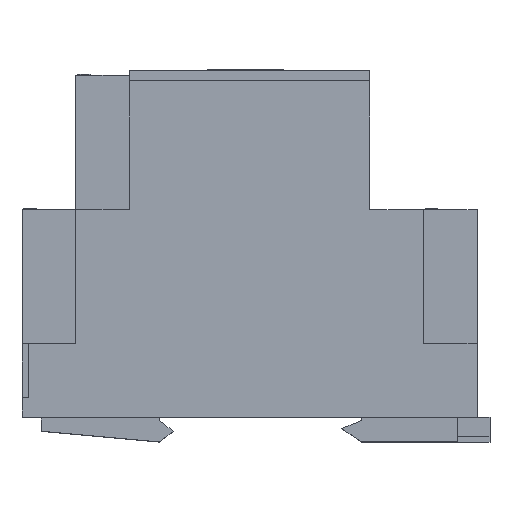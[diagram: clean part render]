
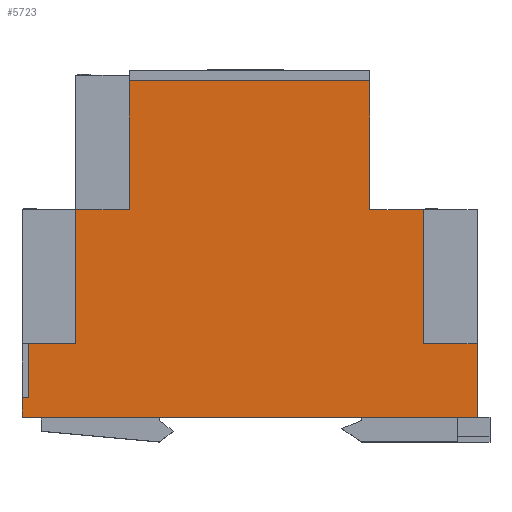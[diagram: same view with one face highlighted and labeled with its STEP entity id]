
A CAD part, top view. The second image highlights one B-rep face of the part: STEP entity #5723.
In plain terms, the highlighted planar face has unit normal (0, 0, 1).
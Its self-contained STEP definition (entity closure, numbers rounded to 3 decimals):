
#252 = DIRECTION ( 'NONE',  ( 0., -1., 0. ) ) ;
#365 = VECTOR ( 'NONE', #18412, 1000. ) ;
#812 = CARTESIAN_POINT ( 'NONE',  ( -83.5, 3.7, 1.3 ) ) ;
#862 = CARTESIAN_POINT ( 'NONE',  ( -10., 0., 1.3 ) ) ;
#888 = VERTEX_POINT ( 'NONE', #14389 ) ;
#930 = DIRECTION ( 'NONE',  ( 1., 0., 0. ) ) ;
#960 = DIRECTION ( 'NONE',  ( 0., 1., 0. ) ) ;
#985 = EDGE_CURVE ( 'NONE', #888, #11224, #7824, .T. ) ;
#1005 = EDGE_CURVE ( 'NONE', #10186, #8258, #7580, .T. ) ;
#1074 = DIRECTION ( 'NONE',  ( 1., 0., 0. ) ) ;
#1249 = VERTEX_POINT ( 'NONE', #3626 ) ;
#1283 = ORIENTED_EDGE ( 'NONE', *, *, #6803, .F. ) ;
#1421 = LINE ( 'NONE', #3246, #16310 ) ;
#1718 = VERTEX_POINT ( 'NONE', #4795 ) ;
#2174 = ORIENTED_EDGE ( 'NONE', *, *, #6725, .T. ) ;
#2291 = ORIENTED_EDGE ( 'NONE', *, *, #5505, .F. ) ;
#3193 = CARTESIAN_POINT ( 'NONE',  ( -74.8, 0., 1.3 ) ) ;
#3246 = CARTESIAN_POINT ( 'NONE',  ( 0., 0., 1.3 ) ) ;
#3335 = CARTESIAN_POINT ( 'NONE',  ( -84.8, 0., 1.3 ) ) ;
#3439 = VERTEX_POINT ( 'NONE', #15378 ) ;
#3473 = EDGE_CURVE ( 'NONE', #10295, #13990, #14939, .T. ) ;
#3626 = CARTESIAN_POINT ( 'NONE',  ( -10., 38.7, 1.3 ) ) ;
#3632 = DIRECTION ( 'NONE',  ( 1., 0., 0. ) ) ;
#3707 = VECTOR ( 'NONE', #960, 1000. ) ;
#4063 = VERTEX_POINT ( 'NONE', #5081 ) ;
#4194 = CARTESIAN_POINT ( 'NONE',  ( -20., 0., 1.3 ) ) ;
#4511 = LINE ( 'NONE', #15519, #9667 ) ;
#4767 = ORIENTED_EDGE ( 'NONE', *, *, #6752, .F. ) ;
#4795 = CARTESIAN_POINT ( 'NONE',  ( -84.8, 3.7, 1.3 ) ) ;
#5074 = LINE ( 'NONE', #18643, #17233 ) ;
#5081 = CARTESIAN_POINT ( 'NONE',  ( -83.5, 3.7, 1.3 ) ) ;
#5272 = EDGE_CURVE ( 'NONE', #13990, #10186, #6976, .T. ) ;
#5318 = CARTESIAN_POINT ( 'NONE',  ( 0., 38.7, 1.3 ) ) ;
#5337 = CARTESIAN_POINT ( 'NONE',  ( -74.8, 38.7, 1.3 ) ) ;
#5424 = ORIENTED_EDGE ( 'NONE', *, *, #12480, .F. ) ;
#5505 = EDGE_CURVE ( 'NONE', #15622, #16777, #13531, .T. ) ;
#5723 = ADVANCED_FACE ( 'NONE', ( #11210 ), #8052, .T. ) ;
#5869 = EDGE_CURVE ( 'NONE', #3439, #12177, #4511, .T. ) ;
#6334 = DIRECTION ( 'NONE',  ( 0., 1., 0. ) ) ;
#6620 = CARTESIAN_POINT ( 'NONE',  ( 0., 62.7, 1.3 ) ) ;
#6714 = LINE ( 'NONE', #812, #17750 ) ;
#6725 = EDGE_CURVE ( 'NONE', #4063, #1718, #10307, .T. ) ;
#6752 = EDGE_CURVE ( 'NONE', #8258, #15622, #11872, .T. ) ;
#6803 = EDGE_CURVE ( 'NONE', #4063, #13276, #6714, .T. ) ;
#6976 = LINE ( 'NONE', #5318, #11220 ) ;
#7221 = ORIENTED_EDGE ( 'NONE', *, *, #5272, .F. ) ;
#7290 = ORIENTED_EDGE ( 'NONE', *, *, #5869, .F. ) ;
#7557 = DIRECTION ( 'NONE',  ( 0., -1., 0. ) ) ;
#7580 = LINE ( 'NONE', #10592, #16622 ) ;
#7680 = AXIS2_PLACEMENT_3D ( 'NONE', #13789, #11110, #930 ) ;
#7697 = LINE ( 'NONE', #862, #14231 ) ;
#7824 = LINE ( 'NONE', #10095, #11378 ) ;
#7992 = DIRECTION ( 'NONE',  ( 0., 1., 0. ) ) ;
#8052 = PLANE ( 'NONE',  #7680 ) ;
#8091 = ORIENTED_EDGE ( 'NONE', *, *, #17786, .F. ) ;
#8097 = CARTESIAN_POINT ( 'NONE',  ( -20., 62.7, 1.3 ) ) ;
#8251 = LINE ( 'NONE', #8549, #365 ) ;
#8258 = VERTEX_POINT ( 'NONE', #12171 ) ;
#8314 = EDGE_LOOP ( 'NONE', ( #2174, #5424, #7290, #8091, #18608, #14017, #14623, #2291, #4767, #9472, #7221, #11293, #9738, #1283 ) ) ;
#8549 = CARTESIAN_POINT ( 'NONE',  ( -84.8, 0., 1.3 ) ) ;
#8867 = DIRECTION ( 'NONE',  ( 1., 0., 0. ) ) ;
#9196 = VECTOR ( 'NONE', #13678, 1000. ) ;
#9414 = CARTESIAN_POINT ( 'NONE',  ( 0., 13.7, 1.3 ) ) ;
#9472 = ORIENTED_EDGE ( 'NONE', *, *, #1005, .F. ) ;
#9540 = EDGE_CURVE ( 'NONE', #1249, #888, #7697, .T. ) ;
#9667 = VECTOR ( 'NONE', #15470, 1000. ) ;
#9738 = ORIENTED_EDGE ( 'NONE', *, *, #14082, .F. ) ;
#10095 = CARTESIAN_POINT ( 'NONE',  ( 0., 13.7, 1.3 ) ) ;
#10186 = VERTEX_POINT ( 'NONE', #11525 ) ;
#10295 = VERTEX_POINT ( 'NONE', #17842 ) ;
#10307 = LINE ( 'NONE', #11944, #9196 ) ;
#10592 = CARTESIAN_POINT ( 'NONE',  ( -64.8, 0., 1.3 ) ) ;
#10790 = VECTOR ( 'NONE', #252, 1000. ) ;
#10993 = DIRECTION ( 'NONE',  ( 0., -1., 0. ) ) ;
#11110 = DIRECTION ( 'NONE',  ( 0., 0., 1. ) ) ;
#11210 = FACE_OUTER_BOUND ( 'NONE', #8314, .T. ) ;
#11220 = VECTOR ( 'NONE', #1074, 1000. ) ;
#11224 = VERTEX_POINT ( 'NONE', #9414 ) ;
#11293 = ORIENTED_EDGE ( 'NONE', *, *, #3473, .F. ) ;
#11378 = VECTOR ( 'NONE', #8867, 1000. ) ;
#11525 = CARTESIAN_POINT ( 'NONE',  ( -64.8, 38.7, 1.3 ) ) ;
#11588 = DIRECTION ( 'NONE',  ( 1., 0., 0. ) ) ;
#11872 = LINE ( 'NONE', #6620, #15255 ) ;
#11944 = CARTESIAN_POINT ( 'NONE',  ( -83.5, 3.7, 1.3 ) ) ;
#12171 = CARTESIAN_POINT ( 'NONE',  ( -64.8, 62.7, 1.3 ) ) ;
#12177 = VERTEX_POINT ( 'NONE', #3335 ) ;
#12346 = VECTOR ( 'NONE', #16688, 1000. ) ;
#12480 = EDGE_CURVE ( 'NONE', #12177, #1718, #8251, .T. ) ;
#13276 = VERTEX_POINT ( 'NONE', #16227 ) ;
#13531 = LINE ( 'NONE', #4194, #10790 ) ;
#13678 = DIRECTION ( 'NONE',  ( -1., 0., 0. ) ) ;
#13789 = CARTESIAN_POINT ( 'NONE',  ( 0., 0., 1.3 ) ) ;
#13990 = VERTEX_POINT ( 'NONE', #5337 ) ;
#14017 = ORIENTED_EDGE ( 'NONE', *, *, #9540, .F. ) ;
#14082 = EDGE_CURVE ( 'NONE', #13276, #10295, #5074, .T. ) ;
#14231 = VECTOR ( 'NONE', #10993, 1000. ) ;
#14389 = CARTESIAN_POINT ( 'NONE',  ( -10., 13.7, 1.3 ) ) ;
#14623 = ORIENTED_EDGE ( 'NONE', *, *, #15669, .F. ) ;
#14939 = LINE ( 'NONE', #3193, #3707 ) ;
#15255 = VECTOR ( 'NONE', #3632, 1000. ) ;
#15378 = CARTESIAN_POINT ( 'NONE',  ( 0., 0., 1.3 ) ) ;
#15470 = DIRECTION ( 'NONE',  ( -1., 0., 0. ) ) ;
#15519 = CARTESIAN_POINT ( 'NONE',  ( 0., 0., 1.3 ) ) ;
#15622 = VERTEX_POINT ( 'NONE', #8097 ) ;
#15669 = EDGE_CURVE ( 'NONE', #16777, #1249, #17558, .T. ) ;
#16227 = CARTESIAN_POINT ( 'NONE',  ( -83.5, 13.7, 1.3 ) ) ;
#16310 = VECTOR ( 'NONE', #7557, 1000. ) ;
#16622 = VECTOR ( 'NONE', #6334, 1000. ) ;
#16688 = DIRECTION ( 'NONE',  ( 1., 0., 0. ) ) ;
#16777 = VERTEX_POINT ( 'NONE', #17471 ) ;
#17233 = VECTOR ( 'NONE', #11588, 1000. ) ;
#17471 = CARTESIAN_POINT ( 'NONE',  ( -20., 38.7, 1.3 ) ) ;
#17558 = LINE ( 'NONE', #18043, #12346 ) ;
#17750 = VECTOR ( 'NONE', #7992, 1000. ) ;
#17786 = EDGE_CURVE ( 'NONE', #11224, #3439, #1421, .T. ) ;
#17842 = CARTESIAN_POINT ( 'NONE',  ( -74.8, 13.7, 1.3 ) ) ;
#18043 = CARTESIAN_POINT ( 'NONE',  ( 0., 38.7, 1.3 ) ) ;
#18412 = DIRECTION ( 'NONE',  ( 0., 1., 0. ) ) ;
#18608 = ORIENTED_EDGE ( 'NONE', *, *, #985, .F. ) ;
#18643 = CARTESIAN_POINT ( 'NONE',  ( 0., 13.7, 1.3 ) ) ;
